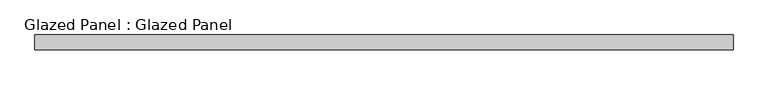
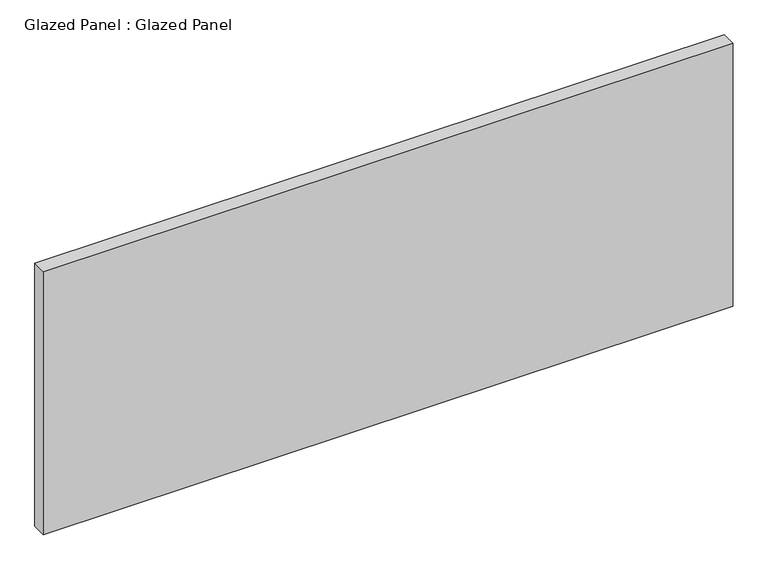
"""IFC4 building model written with IfcOpenShell, lengths in millimetres: plate geometry, Glazed Panel : Glazed Panel."""

from ifc_helpers import new_model, si_unit, origin, origin_with_axes, place, context, project, spatial, polyline, outline, extrude, source, transform, mapped, element, save


def glazed_panel_glazed_panel_bbc6a8ac(model_context):
    return source(origin(), model_context, "Body", "SweptSolid", [
        extrude(outline(polyline([(600.3827129, 38.1), (-600.3827129, 38.1), (-600.3827129, 63.5), (600.3827129, 63.5), (600.3827129, 38.1)])), origin_with_axes(), (0.0, 0.0, 1.0), 484.0912587),
    ])


if __name__ == "__main__":
    model = new_model("IFC4")
    model_context = context("Model", 3, world=origin())
    ifc_project = project(units=[si_unit("LENGTHUNIT", "METRE", prefix="MILLI")], contexts=[model_context])
    site = spatial("IfcSite", under=ifc_project)
    building = spatial("IfcBuilding", under=site)
    placement = place(None, origin())
    glazed_panel_glazed_panel_shape = glazed_panel_glazed_panel_bbc6a8ac(model_context)
    element("IfcPlate", 1, ObjectType="Glazed Panel : Glazed Panel", at=placement, inside=building, context=model_context, shape_type="MappedRepresentation", body=[
        mapped(glazed_panel_glazed_panel_shape, transform((0.0, 0.0, 0.0), x_axis=(1.0, 0.0, 0.0), y_axis=(0.0, 1.0, 0.0), z_axis=(0.0, 0.0, 1.0))),
    ])
    save(model, "model.ifc")
